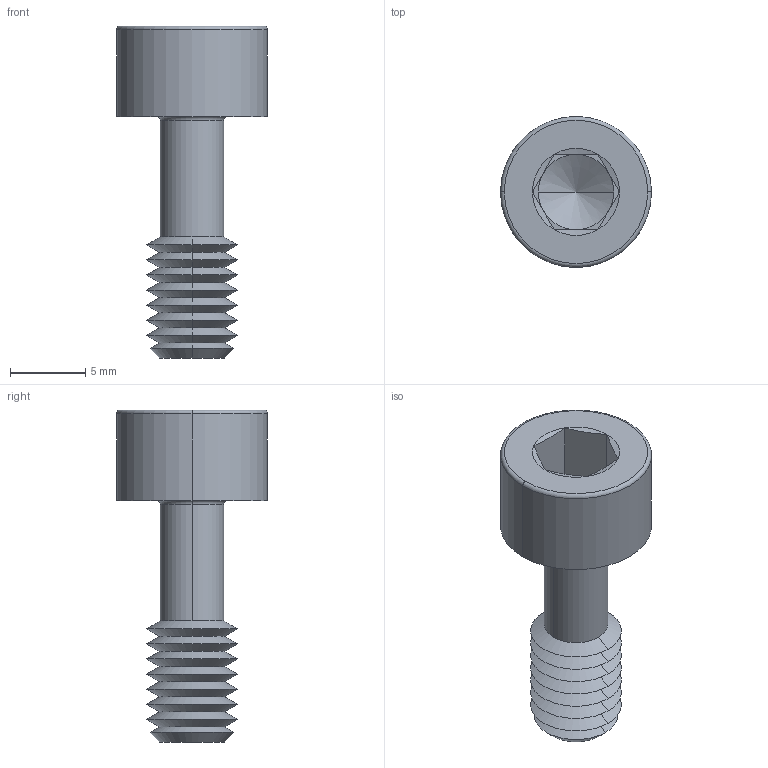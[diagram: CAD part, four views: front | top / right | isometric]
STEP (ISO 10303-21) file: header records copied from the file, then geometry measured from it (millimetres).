
FILE_DESCRIPTION (( 'STEP AP203' ), '1' );
FILE_NAME ('P0154.060-016-BL.step', '2024-06-17T11:28:31', ( '' ), ( '' ), 'SwSTEP 2.0', 'SolidWorks 2019', '' );
FILE_SCHEMA (( 'CONFIG_CONTROL_DESIGN' ));
Length unit declared in the file: millimetre
Products named in the file (1): P0154.060-016-BL
Bounding box: 10 x 10 x 22 mm (x, y, z)
Volume: 629.3 mm3; surface area: 786.7 mm2
Topology: 1 solids, 1 shells, 63 faces, 128 edges, 67 vertices
Faces by surface type: cone 40, plane 15, torus 4, cylinder 4
Entity records: 1687 total; most frequent: DIRECTION 312, CARTESIAN_POINT 283, ORIENTED_EDGE 252, AXIS2_PLACEMENT_3D 128, EDGE_CURVE 126, VERTEX_POINT 67, EDGE_LOOP 65, CIRCLE 64
